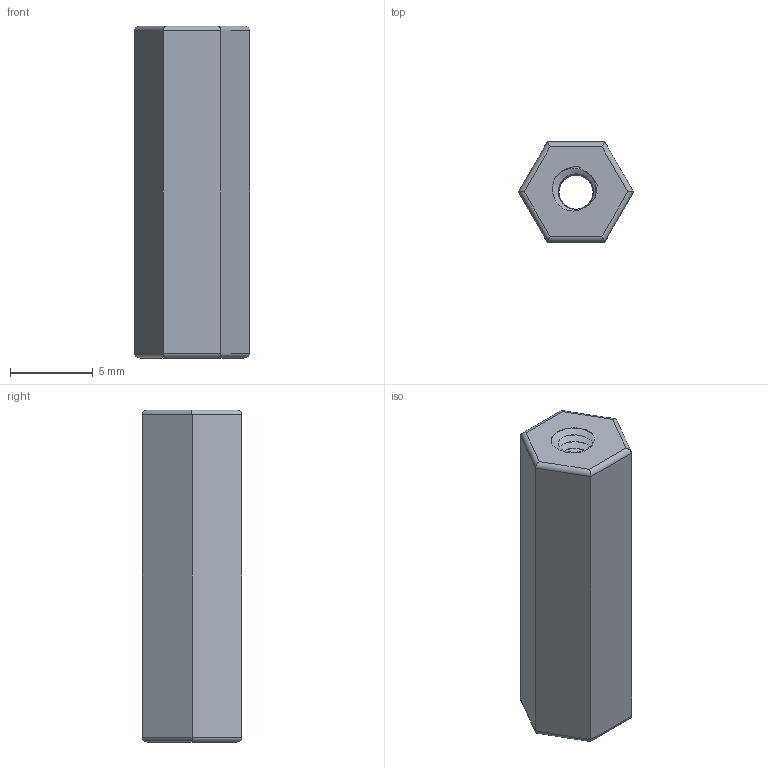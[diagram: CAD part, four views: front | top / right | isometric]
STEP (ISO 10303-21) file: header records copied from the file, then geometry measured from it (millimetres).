
FILE_DESCRIPTION (( 'STEP AP214' ), '1' );
FILE_NAME ('DI 640_30.STEP', '2004-04-06T11:58:05', ( '' ), ( '' ), 'SwSTEP 2.0', 'SolidWorks 2002349', '' );
FILE_SCHEMA (( 'AUTOMOTIVE_DESIGN' ));
Length unit declared in the file: millimetre
Products named in the file (1): DI 640_30
Bounding box: 6.93 x 6 x 20 mm (x, y, z)
Volume: 513.1 mm3; surface area: 933.4 mm2
Topology: 2 solids, 2 shells, 64 faces, 168 edges, 108 vertices
Faces by surface type: cylinder 48, plane 11, bspline 5
Entity records: 9636 total; most frequent: CARTESIAN_POINT 8313, ORIENTED_EDGE 336, DIRECTION 200, EDGE_CURVE 168, VERTEX_POINT 108, LINE 74, VECTOR 74, EDGE_LOOP 66
